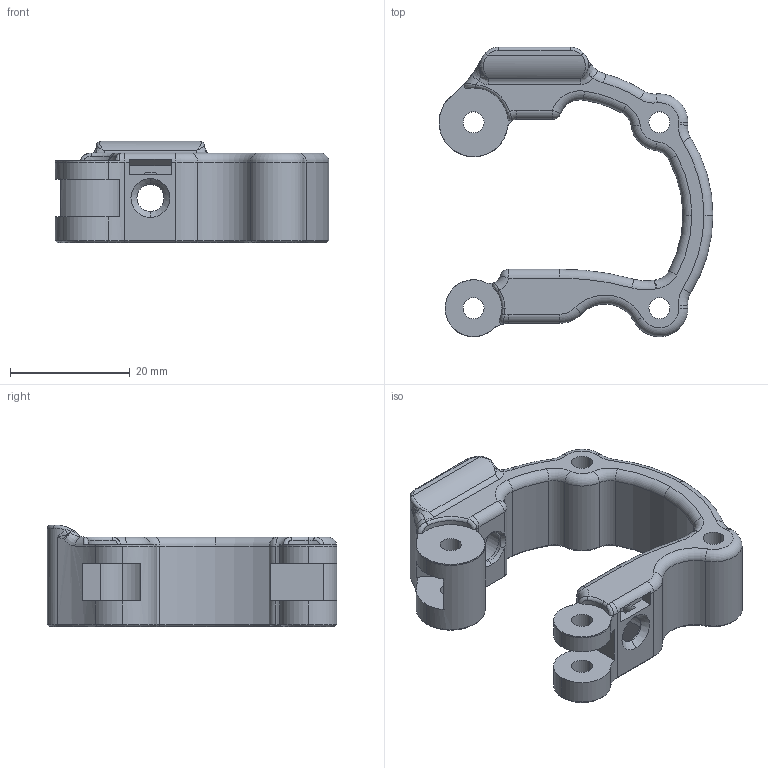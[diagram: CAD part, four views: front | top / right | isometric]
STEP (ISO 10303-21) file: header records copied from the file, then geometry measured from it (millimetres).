
FILE_DESCRIPTION (( 'STEP AP203' ), '1' );
FILE_NAME ('feeder_body.STEP', '2014-11-19T22:42:46', ( 'Robban' ), ( '' ), 'SwSTEP 2.0', 'SolidWorks 2013', '' );
FILE_SCHEMA (( 'CONFIG_CONTROL_DESIGN' ));
Length unit declared in the file: millimetre
Products named in the file (1): feeder_body
Bounding box: 45.67 x 48.24 x 17 mm (x, y, z)
Volume: 9953.6 mm3; surface area: 6461.6 mm2
Topology: 1 solids, 1 shells, 227 faces, 572 edges, 341 vertices
Faces by surface type: cylinder 74, cone 52, plane 44, torus 35, bspline 20, sphere 2
Entity records: 8102 total; most frequent: CARTESIAN_POINT 2539, DIRECTION 1225, ORIENTED_EDGE 1130, EDGE_CURVE 565, AXIS2_PLACEMENT_3D 503, VERTEX_POINT 341, CIRCLE 295, EDGE_LOOP 248
